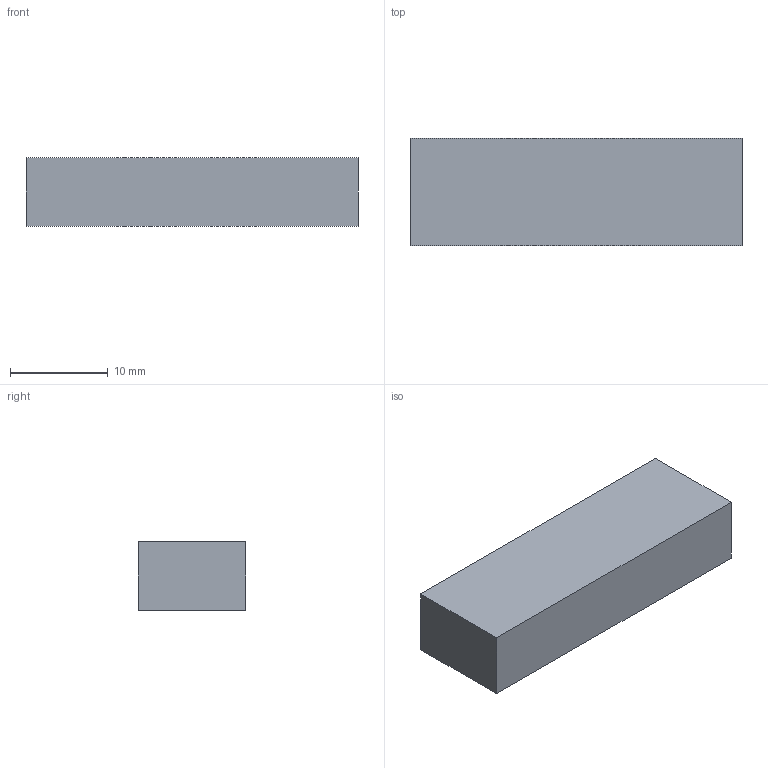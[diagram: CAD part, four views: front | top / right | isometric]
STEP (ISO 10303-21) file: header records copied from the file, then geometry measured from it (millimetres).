
FILE_DESCRIPTION(/* description */ (''),/* implementation_level */ '2;1');
FILE_NAME(/* name */ 'F:\daten\PRODUKTE\TELEMETR\SV\Mechanik\CAD\7a\SV_B11xT34XH7\SV_B11xT34xH7.stp',/* time_stamp */ '2016-06-28T16:02:46+02:00',/* author */ ('rosner'),/* organization */ (''),/* preprocessor_version */ 'ST-DEVELOPER v16.5',/* originating_system */ 'Autodesk Inventor 2017',/* authorisation */ '');
FILE_SCHEMA (('AUTOMOTIVE_DESIGN { 1 0 10303 214 3 1 1 }'));
Length unit declared in the file: millimetre
Products named in the file (1): SV_B11xT30xH8
Bounding box: 34 x 11 x 7 mm (x, y, z)
Volume: 2618 mm3; surface area: 1378 mm2
Topology: 1 solids, 1 shells, 6 faces, 12 edges, 8 vertices
Faces by surface type: plane 6
Entity records: 186 total; most frequent: CARTESIAN_POINT 27, DIRECTION 26, ORIENTED_EDGE 24, LINE 12, VECTOR 12, EDGE_CURVE 12, VERTEX_POINT 8, AXIS2_PLACEMENT_3D 7
